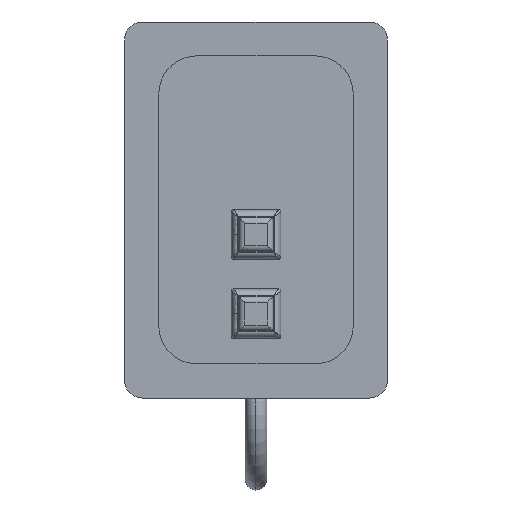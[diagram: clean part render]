
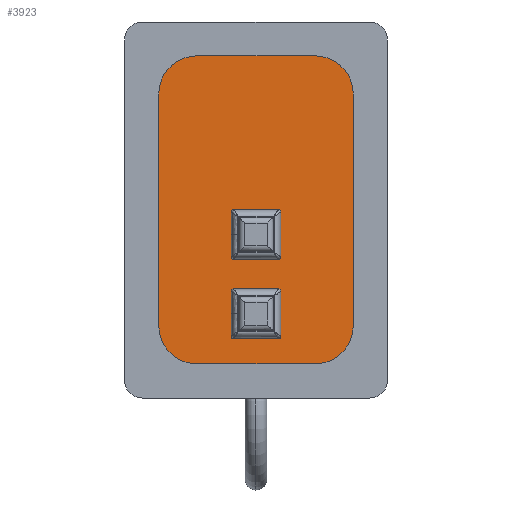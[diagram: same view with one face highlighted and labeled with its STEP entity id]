
A CAD part, top view. The second image highlights one B-rep face of the part: STEP entity #3923.
In plain terms, the highlighted planar face has unit normal (0, 0, 1).
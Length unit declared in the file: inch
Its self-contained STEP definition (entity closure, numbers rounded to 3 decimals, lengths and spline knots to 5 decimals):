
#205 = CARTESIAN_POINT ( 'NONE',  ( 0.2395, -1.31728, 0.095 ) ) ;
#206 = CARTESIAN_POINT ( 'NONE',  ( -0.82, -2.13483, 0.095 ) ) ;
#207 = CARTESIAN_POINT ( 'NONE',  ( -1.35, -1.60483, 0.095 ) ) ;
#209 = CARTESIAN_POINT ( 'NONE',  ( 1.35, -1.60483, 0.095 ) ) ;
#212 = CARTESIAN_POINT ( 'NONE',  ( 0.2395, -1.55557, 0.095 ) ) ;
#213 = CARTESIAN_POINT ( 'NONE',  ( 1.35, 1.60957, 0.095 ) ) ;
#214 = CARTESIAN_POINT ( 'NONE',  ( 0.2395, -0.22085, 0.095 ) ) ;
#215 = CARTESIAN_POINT ( 'NONE',  ( 0.82, 2.13957, 0.095 ) ) ;
#216 = CARTESIAN_POINT ( 'NONE',  ( 0.2395, -0.45915, 0.095 ) ) ;
#218 = CARTESIAN_POINT ( 'NONE',  ( -0.82, 2.13957, 0.095 ) ) ;
#220 = CARTESIAN_POINT ( 'NONE',  ( -1.35, 1.60957, 0.095 ) ) ;
#227 = CARTESIAN_POINT ( 'NONE',  ( 0.82, -2.13483, 0.095 ) ) ;
#941 = CIRCLE ( 'NONE', #8115, 0.53 ) ;
#950 = LINE ( 'NONE', #3749, #952 ) ;
#951 = LINE ( 'NONE', #3771, #965 ) ;
#952 = VECTOR ( 'NONE', #3748, 39.37008 ) ;
#953 = LINE ( 'NONE', #3760, #956 ) ;
#956 = VECTOR ( 'NONE', #3761, 39.37008 ) ;
#960 = CIRCLE ( 'NONE', #10720, 0.53 ) ;
#962 = LINE ( 'NONE', #3784, #972 ) ;
#965 = VECTOR ( 'NONE', #3776, 39.37008 ) ;
#966 = LINE ( 'NONE', #3775, #968 ) ;
#967 = CIRCLE ( 'NONE', #10724, 0.53 ) ;
#968 = VECTOR ( 'NONE', #3770, 39.37008 ) ;
#969 = CIRCLE ( 'NONE', #10727, 0.2675 ) ;
#972 = VECTOR ( 'NONE', #3780, 39.37008 ) ;
#975 = CIRCLE ( 'NONE', #10731, 0.2675 ) ;
#977 = CIRCLE ( 'NONE', #10735, 0.53 ) ;
#2586 = EDGE_LOOP ( 'NONE', ( #10853, #10919, #2784, #10863, #2667, #2657, #2737, #10906 ) ) ;
#2588 = EDGE_LOOP ( 'NONE', ( #10928, #2777 ) ) ;
#2591 = EDGE_LOOP ( 'NONE', ( #10896, #2740 ) ) ;
#2657 = ORIENTED_EDGE ( 'NONE', *, *, #13978, .T. ) ;
#2667 = ORIENTED_EDGE ( 'NONE', *, *, #13988, .T. ) ;
#2737 = ORIENTED_EDGE ( 'NONE', *, *, #13976, .T. ) ;
#2740 = ORIENTED_EDGE ( 'NONE', *, *, #13982, .F. ) ;
#2777 = ORIENTED_EDGE ( 'NONE', *, *, #13986, .F. ) ;
#2784 = ORIENTED_EDGE ( 'NONE', *, *, #13969, .T. ) ;
#3547 = DIRECTION ( 'NONE',  ( -1., 0., 0. ) ) ;
#3551 = CARTESIAN_POINT ( 'NONE',  ( 0.82, 2.13957, 0.095 ) ) ;
#3748 = DIRECTION ( 'NONE',  ( 0., 1., 0. ) ) ;
#3749 = CARTESIAN_POINT ( 'NONE',  ( 0.2395, -1.55557, 0.095 ) ) ;
#3755 = CARTESIAN_POINT ( 'NONE',  ( 0.82, 1.60957, 0.095 ) ) ;
#3756 = DIRECTION ( 'NONE',  ( 0., 0., 1. ) ) ;
#3757 = DIRECTION ( 'NONE',  ( 1., 0., 0. ) ) ;
#3760 = CARTESIAN_POINT ( 'NONE',  ( 0.82, -2.13483, 0.095 ) ) ;
#3761 = DIRECTION ( 'NONE',  ( 1., 0., 0. ) ) ;
#3770 = DIRECTION ( 'NONE',  ( 0., 1., 0. ) ) ;
#3771 = CARTESIAN_POINT ( 'NONE',  ( -1.35, -1.60483, 0.095 ) ) ;
#3772 = CARTESIAN_POINT ( 'NONE',  ( -0.82, -1.60483, 0.095 ) ) ;
#3773 = DIRECTION ( 'NONE',  ( 0., 0., 1. ) ) ;
#3774 = DIRECTION ( 'NONE',  ( 1., 0., 0. ) ) ;
#3775 = CARTESIAN_POINT ( 'NONE',  ( 1.35, 1.60957, 0.095 ) ) ;
#3776 = DIRECTION ( 'NONE',  ( 0., -1., 0. ) ) ;
#3780 = DIRECTION ( 'NONE',  ( 0., 1., 0. ) ) ;
#3781 = CARTESIAN_POINT ( 'NONE',  ( 0.82, -1.60483, 0.095 ) ) ;
#3782 = DIRECTION ( 'NONE',  ( 0., 0., 1. ) ) ;
#3783 = DIRECTION ( 'NONE',  ( 1., 0., 0. ) ) ;
#3784 = CARTESIAN_POINT ( 'NONE',  ( 0.2395, -0.45915, 0.095 ) ) ;
#3785 = CARTESIAN_POINT ( 'NONE',  ( 0., -0.34, 0.095 ) ) ;
#3786 = DIRECTION ( 'NONE',  ( 0., 0., 1. ) ) ;
#3787 = DIRECTION ( 'NONE',  ( 1., 0., 0. ) ) ;
#3793 = CARTESIAN_POINT ( 'NONE',  ( 0., -1.43642, 0.095 ) ) ;
#3794 = DIRECTION ( 'NONE',  ( 0., 0., 1. ) ) ;
#3795 = DIRECTION ( 'NONE',  ( 1., 0., 0. ) ) ;
#3799 = CARTESIAN_POINT ( 'NONE',  ( -0.82, 1.60957, 0.095 ) ) ;
#3800 = DIRECTION ( 'NONE',  ( 0., 0., 1. ) ) ;
#3801 = DIRECTION ( 'NONE',  ( 1., 0., 0. ) ) ;
#3923 = ADVANCED_FACE ( 'NONE', ( #7313, #7316, #7311 ), #5621, .T. ) ;
#5614 = DIRECTION ( 'NONE',  ( 0., 0., 1. ) ) ;
#5619 = CARTESIAN_POINT ( 'NONE',  ( 0.82, -1.60483, 0.095 ) ) ;
#5621 = PLANE ( 'NONE',  #12773 ) ;
#5623 = DIRECTION ( 'NONE',  ( 1., 0., 0. ) ) ;
#6284 = VERTEX_POINT ( 'NONE', #205 ) ;
#6285 = VERTEX_POINT ( 'NONE', #206 ) ;
#6286 = VERTEX_POINT ( 'NONE', #207 ) ;
#6288 = VERTEX_POINT ( 'NONE', #209 ) ;
#6291 = VERTEX_POINT ( 'NONE', #212 ) ;
#6292 = VERTEX_POINT ( 'NONE', #213 ) ;
#6293 = VERTEX_POINT ( 'NONE', #214 ) ;
#6294 = VERTEX_POINT ( 'NONE', #215 ) ;
#6295 = VERTEX_POINT ( 'NONE', #216 ) ;
#6297 = VERTEX_POINT ( 'NONE', #218 ) ;
#6299 = VERTEX_POINT ( 'NONE', #220 ) ;
#6306 = VERTEX_POINT ( 'NONE', #227 ) ;
#7311 = FACE_BOUND ( 'NONE', #2588, .T. ) ;
#7313 = FACE_BOUND ( 'NONE', #2591, .T. ) ;
#7316 = FACE_OUTER_BOUND ( 'NONE', #2586, .T. ) ;
#8115 = AXIS2_PLACEMENT_3D ( 'NONE', #3755, #3756, #3757 ) ;
#10720 = AXIS2_PLACEMENT_3D ( 'NONE', #3772, #3773, #3774 ) ;
#10724 = AXIS2_PLACEMENT_3D ( 'NONE', #3781, #3782, #3783 ) ;
#10727 = AXIS2_PLACEMENT_3D ( 'NONE', #3785, #3786, #3787 ) ;
#10731 = AXIS2_PLACEMENT_3D ( 'NONE', #3793, #3794, #3795 ) ;
#10735 = AXIS2_PLACEMENT_3D ( 'NONE', #3799, #3800, #3801 ) ;
#10853 = ORIENTED_EDGE ( 'NONE', *, *, #13981, .T. ) ;
#10863 = ORIENTED_EDGE ( 'NONE', *, *, #13903, .T. ) ;
#10896 = ORIENTED_EDGE ( 'NONE', *, *, #13983, .F. ) ;
#10906 = ORIENTED_EDGE ( 'NONE', *, *, #13972, .T. ) ;
#10919 = ORIENTED_EDGE ( 'NONE', *, *, #13980, .T. ) ;
#10928 = ORIENTED_EDGE ( 'NONE', *, *, #13970, .F. ) ;
#12704 = LINE ( 'NONE', #3551, #12709 ) ;
#12709 = VECTOR ( 'NONE', #3547, 39.37008 ) ;
#12773 = AXIS2_PLACEMENT_3D ( 'NONE', #5619, #5614, #5623 ) ;
#13903 = EDGE_CURVE ( 'NONE', #6294, #6297, #12704, .T. ) ;
#13969 = EDGE_CURVE ( 'NONE', #6292, #6294, #941, .T. ) ;
#13970 = EDGE_CURVE ( 'NONE', #6291, #6284, #950, .T. ) ;
#13972 = EDGE_CURVE ( 'NONE', #6285, #6306, #953, .T. ) ;
#13976 = EDGE_CURVE ( 'NONE', #6286, #6285, #960, .T. ) ;
#13978 = EDGE_CURVE ( 'NONE', #6299, #6286, #951, .T. ) ;
#13980 = EDGE_CURVE ( 'NONE', #6288, #6292, #966, .T. ) ;
#13981 = EDGE_CURVE ( 'NONE', #6306, #6288, #967, .T. ) ;
#13982 = EDGE_CURVE ( 'NONE', #6293, #6295, #969, .T. ) ;
#13983 = EDGE_CURVE ( 'NONE', #6295, #6293, #962, .T. ) ;
#13986 = EDGE_CURVE ( 'NONE', #6284, #6291, #975, .T. ) ;
#13988 = EDGE_CURVE ( 'NONE', #6297, #6299, #977, .T. ) ;
